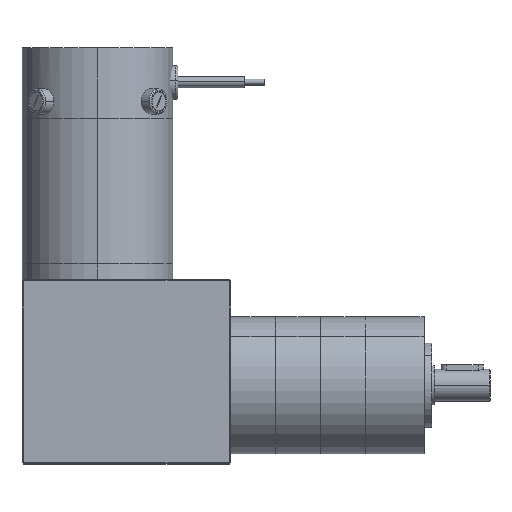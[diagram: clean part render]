
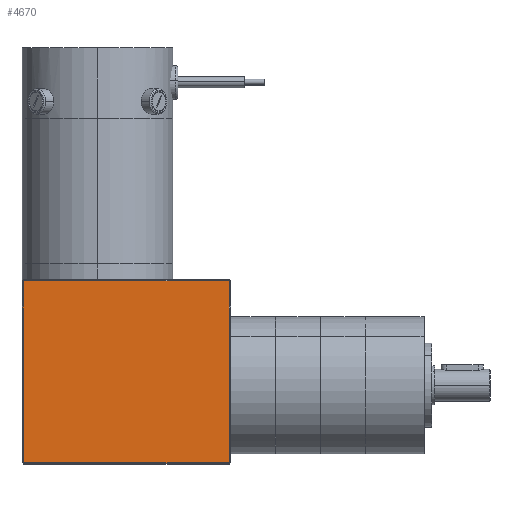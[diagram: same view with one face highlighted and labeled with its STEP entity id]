
A CAD part, top view. The second image highlights one B-rep face of the part: STEP entity #4670.
In plain terms, the highlighted planar face has unit normal (0, 0, 1).
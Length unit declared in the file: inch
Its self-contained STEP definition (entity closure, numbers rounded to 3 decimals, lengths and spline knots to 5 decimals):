
#243 = LINE ( 'NONE', #8577, #6064 ) ;
#558 = VERTEX_POINT ( 'NONE', #8859 ) ;
#1021 = CARTESIAN_POINT ( 'NONE',  ( 3.92427, -0.16397, 3.00127 ) ) ;
#1859 = CARTESIAN_POINT ( 'NONE',  ( 6.99727, 2.56603, 3.00127 ) ) ;
#2957 = VECTOR ( 'NONE', #16945, 39.37008 ) ;
#3096 = DIRECTION ( 'NONE',  ( 0., -1., 0. ) ) ;
#3127 = CARTESIAN_POINT ( 'NONE',  ( 7.01727, -0.16397, 3.00127 ) ) ;
#3987 = VECTOR ( 'NONE', #8614, 39.37008 ) ;
#4670 = ADVANCED_FACE ( 'NONE', ( #4843 ), #16236, .T. ) ;
#4843 = FACE_OUTER_BOUND ( 'NONE', #13589, .T. ) ;
#4943 = AXIS2_PLACEMENT_3D ( 'NONE', #6644, #9365, #15017 ) ;
#6064 = VECTOR ( 'NONE', #3096, 39.37008 ) ;
#6434 = ORIENTED_EDGE ( 'NONE', *, *, #10020, .T. ) ;
#6644 = CARTESIAN_POINT ( 'NONE',  ( 5.46077, 1.19103, 3.00127 ) ) ;
#7277 = CARTESIAN_POINT ( 'NONE',  ( 3.90427, 2.54603, 3.00127 ) ) ;
#7373 = VERTEX_POINT ( 'NONE', #14810 ) ;
#7423 = LINE ( 'NONE', #7277, #3987 ) ;
#8208 = ORIENTED_EDGE ( 'NONE', *, *, #12065, .T. ) ;
#8577 = CARTESIAN_POINT ( 'NONE',  ( 3.92427, -0.18397, 3.00127 ) ) ;
#8614 = DIRECTION ( 'NONE',  ( -1., 0., 0. ) ) ;
#8859 = CARTESIAN_POINT ( 'NONE',  ( 6.99727, -0.16397, 3.00127 ) ) ;
#9072 = VERTEX_POINT ( 'NONE', #12540 ) ;
#9365 = DIRECTION ( 'NONE',  ( 0., 0., 1. ) ) ;
#9480 = VERTEX_POINT ( 'NONE', #1021 ) ;
#9562 = LINE ( 'NONE', #3127, #12771 ) ;
#9950 = EDGE_CURVE ( 'NONE', #9480, #558, #9562, .T. ) ;
#10020 = EDGE_CURVE ( 'NONE', #558, #7373, #12314, .T. ) ;
#10247 = ORIENTED_EDGE ( 'NONE', *, *, #9950, .T. ) ;
#12065 = EDGE_CURVE ( 'NONE', #7373, #9072, #7423, .T. ) ;
#12314 = LINE ( 'NONE', #1859, #2957 ) ;
#12540 = CARTESIAN_POINT ( 'NONE',  ( 3.92427, 2.54603, 3.00127 ) ) ;
#12771 = VECTOR ( 'NONE', #14105, 39.37008 ) ;
#13589 = EDGE_LOOP ( 'NONE', ( #10247, #6434, #8208, #15748 ) ) ;
#14105 = DIRECTION ( 'NONE',  ( 1., 0., 0. ) ) ;
#14691 = EDGE_CURVE ( 'NONE', #9072, #9480, #243, .T. ) ;
#14810 = CARTESIAN_POINT ( 'NONE',  ( 6.99727, 2.54603, 3.00127 ) ) ;
#15017 = DIRECTION ( 'NONE',  ( 1., 0., 0. ) ) ;
#15748 = ORIENTED_EDGE ( 'NONE', *, *, #14691, .T. ) ;
#16236 = PLANE ( 'NONE',  #4943 ) ;
#16945 = DIRECTION ( 'NONE',  ( 0., 1., 0. ) ) ;
